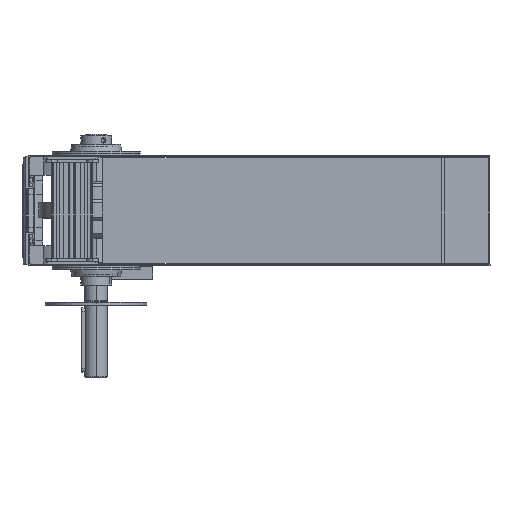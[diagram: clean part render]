
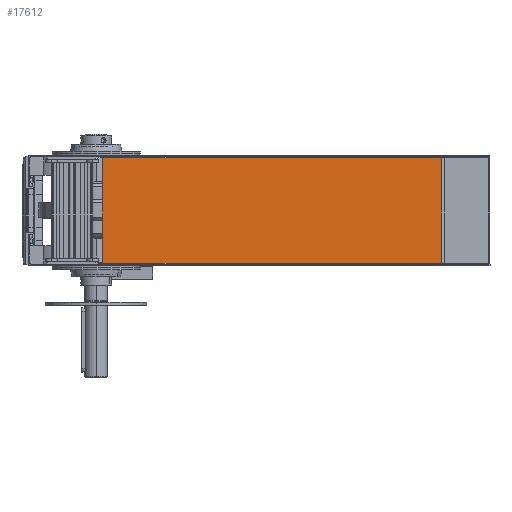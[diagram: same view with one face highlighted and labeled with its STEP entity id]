
A CAD part, left-side view. The second image highlights one B-rep face of the part: STEP entity #17612.
In plain terms, the highlighted planar face has unit normal (-1, 0, 0).
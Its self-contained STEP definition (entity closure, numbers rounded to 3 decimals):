
#1601 = EDGE_CURVE ( 'NONE', #5156, #22668, #40298, .T. ) ;
#5156 = VERTEX_POINT ( 'NONE', #59225 ) ;
#6362 = CARTESIAN_POINT ( 'NONE',  ( -263.5, 48., 114. ) ) ;
#7925 = CARTESIAN_POINT ( 'NONE',  ( -263.5, 48., 0. ) ) ;
#11740 = EDGE_CURVE ( 'NONE', #5156, #18186, #16334, .T. ) ;
#16334 = LINE ( 'NONE', #44556, #22689 ) ;
#16628 = CARTESIAN_POINT ( 'NONE',  ( -263.5, 415., 114. ) ) ;
#17103 = DIRECTION ( 'NONE',  ( 0., 0., -1. ) ) ;
#17612 = ADVANCED_FACE ( 'NONE', ( #56666 ), #32464, .T. ) ;
#18186 = VERTEX_POINT ( 'NONE', #16628 ) ;
#18384 = DIRECTION ( 'NONE',  ( 0., 1., 0. ) ) ;
#20107 = VECTOR ( 'NONE', #32715, 1000. ) ;
#20340 = ORIENTED_EDGE ( 'NONE', *, *, #11740, .T. ) ;
#20735 = ORIENTED_EDGE ( 'NONE', *, *, #41383, .T. ) ;
#21465 = AXIS2_PLACEMENT_3D ( 'NONE', #6362, #42447, #47370 ) ;
#22668 = VERTEX_POINT ( 'NONE', #25320 ) ;
#22689 = VECTOR ( 'NONE', #18384, 1000. ) ;
#25320 = CARTESIAN_POINT ( 'NONE',  ( -263.5, 48.305, 0. ) ) ;
#28389 = DIRECTION ( 'NONE',  ( 0., 1., 0. ) ) ;
#29995 = VERTEX_POINT ( 'NONE', #34847 ) ;
#31267 = ORIENTED_EDGE ( 'NONE', *, *, #1601, .F. ) ;
#31460 = VECTOR ( 'NONE', #17103, 1000. ) ;
#32464 = PLANE ( 'NONE',  #21465 ) ;
#32715 = DIRECTION ( 'NONE',  ( 0., 0., -1. ) ) ;
#32854 = CARTESIAN_POINT ( 'NONE',  ( -263.5, 415., 114. ) ) ;
#34847 = CARTESIAN_POINT ( 'NONE',  ( -263.5, 415., 0. ) ) ;
#38272 = EDGE_LOOP ( 'NONE', ( #58693, #31267, #20340, #20735 ) ) ;
#40298 = LINE ( 'NONE', #53040, #20107 ) ;
#41383 = EDGE_CURVE ( 'NONE', #18186, #29995, #45216, .T. ) ;
#42447 = DIRECTION ( 'NONE',  ( -1., 0., 0. ) ) ;
#42523 = LINE ( 'NONE', #7925, #59417 ) ;
#44556 = CARTESIAN_POINT ( 'NONE',  ( -263.5, 48., 114. ) ) ;
#45216 = LINE ( 'NONE', #32854, #31460 ) ;
#47359 = EDGE_CURVE ( 'NONE', #22668, #29995, #42523, .T. ) ;
#47370 = DIRECTION ( 'NONE',  ( 0., 0., 1. ) ) ;
#53040 = CARTESIAN_POINT ( 'NONE',  ( -263.5, 48.305, 114. ) ) ;
#56666 = FACE_OUTER_BOUND ( 'NONE', #38272, .T. ) ;
#58693 = ORIENTED_EDGE ( 'NONE', *, *, #47359, .F. ) ;
#59225 = CARTESIAN_POINT ( 'NONE',  ( -263.5, 48.305, 114. ) ) ;
#59417 = VECTOR ( 'NONE', #28389, 1000. ) ;
